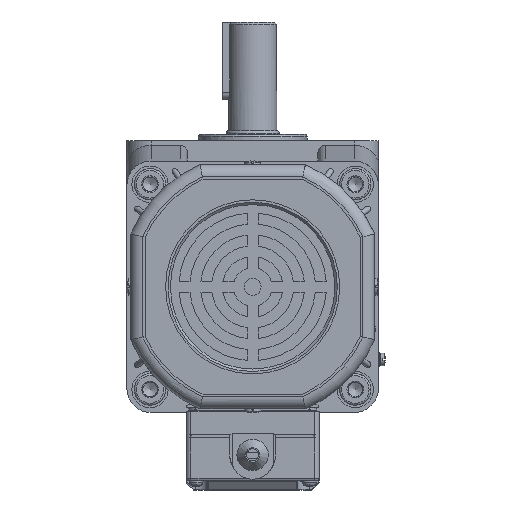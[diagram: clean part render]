
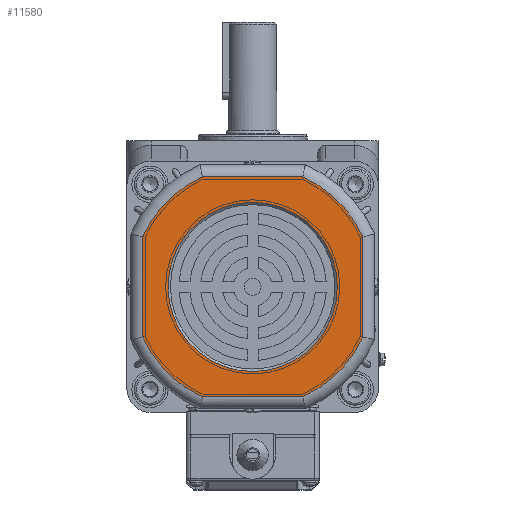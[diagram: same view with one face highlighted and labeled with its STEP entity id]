
A CAD part, left-side view. The second image highlights one B-rep face of the part: STEP entity #11580.
In plain terms, the highlighted planar face has unit normal (-1, 0, 0).
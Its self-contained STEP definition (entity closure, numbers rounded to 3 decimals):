
#3099=PLANE('',#41631);
#6976=LINE('',#61667,#9468);
#6977=LINE('',#61672,#9469);
#6978=LINE('',#61676,#9470);
#6979=LINE('',#61680,#9471);
#9468=VECTOR('',#49441,1.);
#9469=VECTOR('',#49444,1.);
#9470=VECTOR('',#49447,1.);
#9471=VECTOR('',#49450,1.);
#11580=ADVANCED_FACE('',(#13307,#13308),#3099,.F.);
#13307=FACE_BOUND('',#15174,.T.);
#13308=FACE_BOUND('',#15175,.T.);
#15174=EDGE_LOOP('',(#22054,#22055,#22056,#22057,#22058,#22059,#22060,#22061));
#15175=EDGE_LOOP('',(#22062));
#22054=ORIENTED_EDGE('',*,*,#34383,.T.);
#22055=ORIENTED_EDGE('',*,*,#34384,.T.);
#22056=ORIENTED_EDGE('',*,*,#34385,.T.);
#22057=ORIENTED_EDGE('',*,*,#34386,.T.);
#22058=ORIENTED_EDGE('',*,*,#34387,.T.);
#22059=ORIENTED_EDGE('',*,*,#34388,.T.);
#22060=ORIENTED_EDGE('',*,*,#34389,.T.);
#22061=ORIENTED_EDGE('',*,*,#34390,.T.);
#22062=ORIENTED_EDGE('',*,*,#34391,.T.);
#29744=VERTEX_POINT('',#61668);
#29745=VERTEX_POINT('',#61669);
#29746=VERTEX_POINT('',#61671);
#29747=VERTEX_POINT('',#61673);
#29748=VERTEX_POINT('',#61675);
#29749=VERTEX_POINT('',#61677);
#29750=VERTEX_POINT('',#61679);
#29751=VERTEX_POINT('',#61681);
#29752=VERTEX_POINT('',#61684);
#34383=EDGE_CURVE('',#29744,#29745,#6976,.T.);
#34384=EDGE_CURVE('',#29745,#29746,#38505,.T.);
#34385=EDGE_CURVE('',#29746,#29747,#6977,.T.);
#34386=EDGE_CURVE('',#29747,#29748,#38506,.T.);
#34387=EDGE_CURVE('',#29748,#29749,#6978,.T.);
#34388=EDGE_CURVE('',#29749,#29750,#38507,.T.);
#34389=EDGE_CURVE('',#29750,#29751,#6979,.T.);
#34390=EDGE_CURVE('',#29751,#29744,#38508,.T.);
#34391=EDGE_CURVE('',#29752,#29752,#38509,.T.);
#38505=CIRCLE('',#41626,50.);
#38506=CIRCLE('',#41627,50.);
#38507=CIRCLE('',#41628,50.);
#38508=CIRCLE('',#41629,50.);
#38509=CIRCLE('',#41630,35.);
#41626=AXIS2_PLACEMENT_3D('',#61670,#49442,#49443);
#41627=AXIS2_PLACEMENT_3D('',#61674,#49445,#49446);
#41628=AXIS2_PLACEMENT_3D('',#61678,#49448,#49449);
#41629=AXIS2_PLACEMENT_3D('',#61682,#49451,#49452);
#41630=AXIS2_PLACEMENT_3D('',#61683,#49453,#49454);
#41631=AXIS2_PLACEMENT_3D('',#61685,#49455,#49456);
#49441=DIRECTION('',(0.,-1.,0.));
#49442=DIRECTION('',(-1.,0.,0.));
#49443=DIRECTION('',(0.,0.,1.));
#49444=DIRECTION('',(0.,0.,1.));
#49445=DIRECTION('',(-1.,0.,0.));
#49446=DIRECTION('',(0.,0.,1.));
#49447=DIRECTION('',(0.,1.,0.));
#49448=DIRECTION('',(-1.,0.,0.));
#49449=DIRECTION('',(0.,0.,1.));
#49450=DIRECTION('',(0.,0.,-1.));
#49451=DIRECTION('',(-1.,0.,0.));
#49452=DIRECTION('',(0.,0.,1.));
#49453=DIRECTION('',(1.,0.,0.));
#49454=DIRECTION('',(0.,-1.,0.));
#49455=DIRECTION('',(1.,0.,0.));
#49456=DIRECTION('',(0.,0.,1.));
#61667=CARTESIAN_POINT('',(-251.8,-142.46,-103.991));
#61668=CARTESIAN_POINT('',(-251.8,-99.941,-103.991));
#61669=CARTESIAN_POINT('',(-251.8,-141.402,-103.991));
#61670=CARTESIAN_POINT('',(-251.8,-120.671,-58.491));
#61671=CARTESIAN_POINT('',(-251.8,-166.171,-79.221));
#61672=CARTESIAN_POINT('',(-251.8,-166.171,-36.702));
#61673=CARTESIAN_POINT('',(-251.8,-166.171,-37.76));
#61674=CARTESIAN_POINT('',(-251.8,-120.671,-58.491));
#61675=CARTESIAN_POINT('',(-251.8,-141.402,-12.991));
#61676=CARTESIAN_POINT('',(-251.8,-98.882,-12.991));
#61677=CARTESIAN_POINT('',(-251.8,-99.941,-12.991));
#61678=CARTESIAN_POINT('',(-251.8,-120.671,-58.491));
#61679=CARTESIAN_POINT('',(-251.8,-75.171,-37.76));
#61680=CARTESIAN_POINT('',(-251.8,-75.171,-80.28));
#61681=CARTESIAN_POINT('',(-251.8,-75.171,-79.221));
#61682=CARTESIAN_POINT('',(-251.8,-120.671,-58.491));
#61683=CARTESIAN_POINT('',(-251.8,-120.671,-58.491));
#61684=CARTESIAN_POINT('',(-251.8,-155.671,-58.491));
#61685=CARTESIAN_POINT('',(-251.8,-120.671,-58.491));
